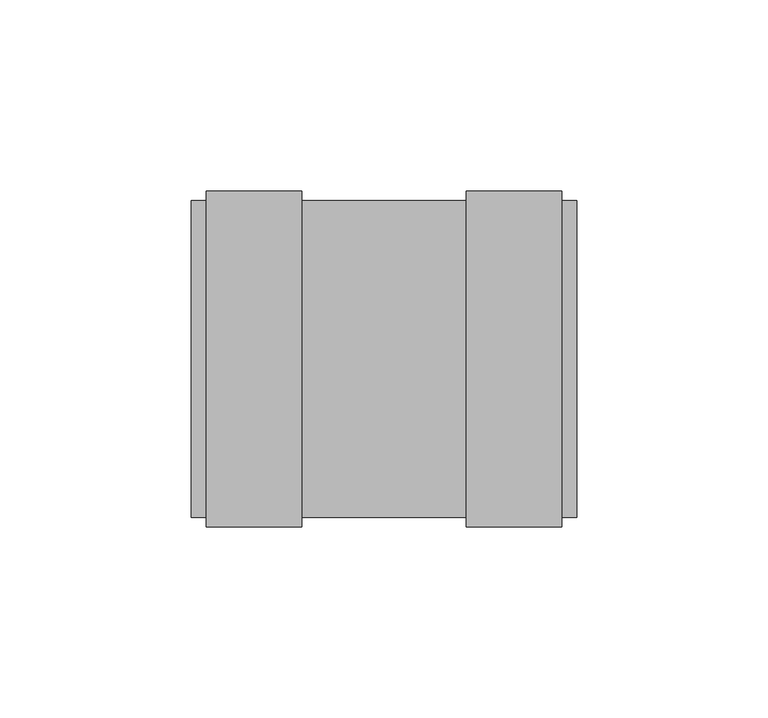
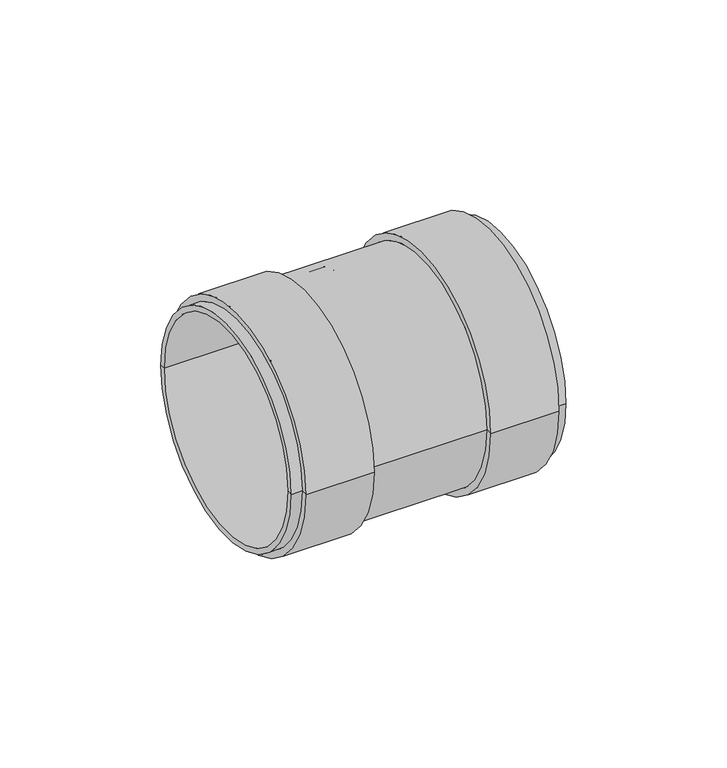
"""IFC4 building model written with IfcOpenShell, lengths in millimetres: duct fitting geometry, NLRS_57_DUF_UN_sleeve joint_M&G : ø75 ø92."""

import ifcopenshell
import ifcopenshell.guid

model = None  # the IFC model being written
_history = None  # IfcOwnerHistory: only IFC2X3 demands one
_inside = {}  # id of a spatial element -> (the spatial element, [elements in it])
_under = {}  # id of a project, library or spatial element -> (it, [spatial elements below it])
_declared = {}  # id of a project -> (the project, [libraries it declares])
_typed = {}  # id of a type object -> (the type object, [elements of that type])
_made_of = {}  # id of a material, layer set ... -> (it, [elements and type objects made of it])


def new_model(schema):
    """Start an empty IFC model of exactly this schema.

    Asked for "IFC4X3", IfcOpenShell would pick the latest addendum, in which some entities
    have other attributes; the version numbers below select the first issue.
    IFC2X3 requires an IfcOwnerHistory on every rooted entity: one is made here for all.
    """
    global model, _history
    if schema == "IFC4X3":
        model = ifcopenshell.file(schema_version=(4, 3, 0, 0))
    else:
        model = ifcopenshell.file(schema=schema)
    _inside.clear()
    _under.clear()
    _declared.clear()
    _typed.clear()
    _made_of.clear()
    _history = None
    if model.schema == "IFC2X3":
        org = make("IfcOrganization", Name="unknown")
        user = make(
            "IfcPersonAndOrganization",
            ThePerson=make("IfcPerson", FamilyName="unknown"),
            TheOrganization=org,
        )
        app = make(
            "IfcApplication",
            ApplicationDeveloper=org,
            Version="unknown",
            ApplicationFullName="unknown",
            ApplicationIdentifier="unknown",
        )
        _history = make(
            "IfcOwnerHistory",
            OwningUser=user,
            OwningApplication=app,
            ChangeAction="ADDED",
            CreationDate=0,
        )
    return model


def make(cls, **values):
    """One entity of the class cls with the attributes given. An attribute that is None is left unset."""
    return model.create_entity(
        cls, **{name: value for name, value in values.items() if value is not None}
    )


def rooted(cls, **values):
    """An entity with a GlobalId (a new one), such as an element, a storey or a relation."""
    return make(cls, GlobalId=ifcopenshell.guid.new(), OwnerHistory=_history, **values)


def si_unit(unit_type, name, prefix=None):
    """IfcSIUnit, for example si_unit("LENGTHUNIT", "METRE", prefix="MILLI")."""
    return make("IfcSIUnit", UnitType=unit_type, Prefix=prefix, Name=name)


def assignment(units):
    """IfcUnitAssignment: the units of a project."""
    return None if units is None else make("IfcUnitAssignment", Units=units)


def point(xyz):
    """IfcCartesianPoint."""
    return None if xyz is None else make("IfcCartesianPoint", Coordinates=xyz)


def direction(xyz):
    """IfcDirection."""
    return None if xyz is None else make("IfcDirection", DirectionRatios=xyz)


def frame(location, z_axis=None, x_axis=None):
    """IfcAxis2Placement3D, a coordinate frame: its origin and axes. An axis left out is left unset."""
    return make(
        "IfcAxis2Placement3D",
        Location=point(location),
        Axis=direction(z_axis),
        RefDirection=direction(x_axis),
    )


def origin():
    """The frame at (0, 0, 0) with its axes left unset."""
    return frame((0.0, 0.0, 0.0))


def place(relative_to, where):
    """IfcLocalPlacement: puts the frame where relative to a parent placement (None: the world)."""
    return make(
        "IfcLocalPlacement", PlacementRelTo=relative_to, RelativePlacement=where
    )


def context(
    kind, dimensions, precision=None, world=None, true_north=None, identifier=None
):
    """IfcGeometricRepresentationContext, for example the 3D "Model" context."""
    return make(
        "IfcGeometricRepresentationContext",
        ContextIdentifier=identifier,
        ContextType=kind,
        CoordinateSpaceDimension=dimensions,
        Precision=precision,
        WorldCoordinateSystem=world,
        TrueNorth=true_north,
    )


def project(units=None, contexts=None):
    """IfcProject with its units and contexts."""
    return rooted(
        "IfcProject",
        Name="project",
        RepresentationContexts=contexts,
        UnitsInContext=assignment(units),
    )


def spatial(cls, under=None, at=None, **own):
    """A site, building, storey or space (cls), placed at a placement, below another one or the project."""
    s = rooted(cls, ObjectPlacement=at, **own)
    if under is not None:
        _under.setdefault(under.id(), (under, []))[1].append(s)
    return s


def polyline(points):
    """IfcPolyline through the points."""
    return make("IfcPolyline", Points=[point(p) for p in points])


def circle_curve(where, radius):
    """IfcCircle in the frame where."""
    return make("IfcCircle", Position=where, Radius=radius)


def shape(context_of_items, identifier, shape_type, items):
    """IfcShapeRepresentation: the items that make up one representation, for example the "Body"."""
    return make(
        "IfcShapeRepresentation",
        ContextOfItems=context_of_items,
        RepresentationIdentifier=identifier,
        RepresentationType=shape_type,
        Items=items,
    )


def source(mapping_origin, context_of_items, identifier, shape_type, items):
    """IfcRepresentationMap: a shape defined once, which mapped items show again and again."""
    return make(
        "IfcRepresentationMap",
        MappingOrigin=mapping_origin,
        MappedRepresentation=shape(context_of_items, identifier, shape_type, items),
    )


def transform(
    local_origin,
    x_axis=None,
    y_axis=None,
    z_axis=None,
    scale=None,
    scale2=None,
    scale3=None,
    uniform=True,
):
    """IfcCartesianTransformationOperator3D, or its non-uniform kind. x_axis, y_axis, z_axis: its Axis1, 2, 3."""
    if uniform:
        return make(
            "IfcCartesianTransformationOperator3D",
            Axis1=direction(x_axis),
            Axis2=direction(y_axis),
            LocalOrigin=point(local_origin),
            Scale=scale,
            Axis3=direction(z_axis),
        )
    return make(
        "IfcCartesianTransformationOperator3DnonUniform",
        Axis1=direction(x_axis),
        Axis2=direction(y_axis),
        LocalOrigin=point(local_origin),
        Scale=scale,
        Axis3=direction(z_axis),
        Scale2=scale2,
        Scale3=scale3,
    )


def mapped(mapping_source, mapping_target):
    """IfcMappedItem: shows the shape of a source again, moved by a transform."""
    return make(
        "IfcMappedItem", MappingSource=mapping_source, MappingTarget=mapping_target
    )


def made_of(thing, what):
    """Note that an element or type object is made of a material, layer set ...; save() writes the relation."""
    if what is not None:
        _made_of.setdefault(what.id(), (what, []))[1].append(thing)
    return thing


def element(
    cls,
    number,
    at=None,
    inside=None,
    cuts=None,
    type_object=None,
    material=None,
    context=None,
    identifier="Body",
    shape_type=None,
    held_by="IfcProductDefinitionShape",
    body=None,
    shapes=None,
    **own,
):
    """One element of the class cls, such as IfcWall. Its Tag is "e" and its number.

    at: its placement. inside: the storey or other place that contains it. cuts: it is an
    opening in that element (IfcRelVoidsElement). A single representation is given by context,
    identifier, shape_type and body (its items); several are given by shapes. held_by: the class
    of the entity that holds the representations. save() writes the other relations.
    """
    e = rooted(cls, Tag="e%d" % number, ObjectPlacement=at, **own)
    if body is not None:
        shapes = [shape(context, identifier, shape_type, body)]
    if shapes is not None:
        e.Representation = make(held_by, Representations=shapes)
    if inside is not None:
        _inside.setdefault(inside.id(), (inside, []))[1].append(e)
    if cuts is not None:
        rooted(
            "IfcRelVoidsElement", RelatingBuildingElement=cuts, RelatedOpeningElement=e
        )
    if type_object is not None:
        _typed.setdefault(type_object.id(), (type_object, []))[1].append(e)
    return made_of(e, material)


def aggregate(whole, parts):
    """IfcRelAggregates: a whole, such as a stair, and the parts it consists of."""
    return rooted("IfcRelAggregates", RelatingObject=whole, RelatedObjects=parts)


def save(model, path):
    """Write the relations noted so far, then the file.

    IfcRelAggregates (storeys below a building ...), IfcRelContainedInSpatialStructure (elements
    in a storey), IfcRelDefinesByType, IfcRelAssociatesMaterial and IfcRelDeclares: one each for
    every whole, place, type object, material and project.
    """
    for whole, parts in _under.values():
        aggregate(whole, parts)
    for where, things in _inside.values():
        rooted(
            "IfcRelContainedInSpatialStructure",
            RelatedElements=things,
            RelatingStructure=where,
        )
    for kind, things in _typed.values():
        rooted("IfcRelDefinesByType", RelatedObjects=things, RelatingType=kind)
    for what, things in _made_of.values():
        rooted("IfcRelAssociatesMaterial", RelatedObjects=things, RelatingMaterial=what)
    for by, libraries in _declared.values():
        rooted("IfcRelDeclares", RelatingContext=by, RelatedDefinitions=libraries)
    model.write(path)


def plane_surface(at):
    """IfcPlane: the flat surface through the origin of the frame at, square to its z axis."""
    return make("IfcPlane", Position=at)


def cylinder_surface(at, radius):
    """IfcCylindricalSurface: all points at the distance radius from the z axis of the frame at."""
    return make("IfcCylindricalSurface", Position=at, Radius=radius)


def revolved_surface(curve, axis_point, axis_direction):
    """IfcSurfaceOfRevolution: the curve turned about the line through axis_point along axis_direction."""
    return make(
        "IfcSurfaceOfRevolution",
        SweptCurve=make("IfcArbitraryOpenProfileDef", ProfileType="CURVE", Curve=curve),
        AxisPosition=make("IfcAxis1Placement", Location=point(axis_point), Axis=direction(axis_direction)),
    )


def advanced_brep(points, edges, surfaces, faces):
    """IfcAdvancedBrep: a solid bounded by faces that lie on surfaces and meet in shared edges.

    An edge is (start, end): straight between two places in points (the first is 0);
    or (start, end, curve); or (start, end, curve, False) where it runs against its curve.
    A face is (place in surfaces, loops), or (place, loops, False) where it looks against
    its surface's normal. A loop lists edges by number (the first is 1), with a minus sign
    where the edge is run from its end to its start. The first loop is the outer one.
    """
    corners = [point(p) for p in points]
    vertices = [make("IfcVertexPoint", VertexGeometry=c) for c in corners]
    made = []
    for start, end, *more in edges:
        made.append(
            make(
                "IfcEdgeCurve",
                EdgeStart=vertices[start],
                EdgeEnd=vertices[end],
                EdgeGeometry=more[0] if more else make("IfcPolyline", Points=[corners[start], corners[end]]),
                SameSense=more[1] if len(more) > 1 else True,
            )
        )
    hull = []
    for where, loops, *sense in faces:
        bounds = []
        for j, loop in enumerate(loops):
            ring = [make("IfcOrientedEdge", EdgeElement=made[abs(k) - 1], Orientation=k > 0) for k in loop]
            bounds.append(
                make(
                    "IfcFaceOuterBound" if j == 0 else "IfcFaceBound",
                    Bound=make("IfcEdgeLoop", EdgeList=ring),
                    Orientation=True,
                )
            )
        hull.append(make("IfcAdvancedFace", Bounds=bounds, FaceSurface=surfaces[where], SameSense=sense[0] if sense else True))
    return make("IfcAdvancedBrep", Outer=make("IfcClosedShell", CfsFaces=hull))


def duct_fitting_2c451d22(model_context):
    return source(origin(), model_context, "Body", "AdvancedBrep", [
        advanced_brep(
        [(-50.5, -41.5, 0.0), (-50.5, 41.5, 0.0), (-46.5, 41.5, 0.0), (-46.5, -41.5, 0.0), (-50.5, -39.5, 0.0), (-50.5, 39.5, 0.0), (-1.5, -39.5, 0.0), (-1.5, 39.5, 0.0), (-1.5, -37.5, 0.0), (-1.5, 37.5, 0.0), (1.5, -39.5, 0.0), (1.5, 39.5, 0.0), (1.5, 37.5, 0.0), (1.5, -37.5, 0.0), (50.5, -39.5, 0.0), (50.5, 39.5, 0.0), (50.5, -41.5, 0.0), (50.5, 41.5, 0.0), (46.5, -41.5, 0.0), (46.5, 41.5, 0.0), (46.5, -44.0, 0.0), (46.5, 44.0, 0.0), (21.5, -44.0, 0.0), (21.5, 44.0, 0.0), (21.5, -41.5, 0.0), (21.5, 41.5, 0.0), (-21.5, -41.5, 0.0), (-21.5, 41.5, 0.0), (-21.5, -44.0, 0.0), (-21.5, 44.0, 0.0), (-46.5, -44.0, 0.0), (-46.5, 44.0, 0.0)],
        [
            (0, 1, circle_curve(frame((-50.5, 0.0, 0.0), z_axis=(1.0, 0.0, 0.0), x_axis=(0.0, 1.0, 0.0)), 41.5)),
            (1, 2),
            (2, 3, circle_curve(frame((-46.5, 0.0, 0.0), z_axis=(-1.0, 0.0, 0.0), x_axis=(0.0, 1.0, 0.0)), 41.5)),
            (3, 0),
            (1, 0, circle_curve(frame((-50.5, 0.0, 0.0), z_axis=(1.0, 0.0, 0.0), x_axis=(0.0, 1.0, 0.0)), 41.5)),
            (3, 2, circle_curve(frame((-46.5, 0.0, 0.0), z_axis=(-1.0, 0.0, 0.0), x_axis=(0.0, 1.0, 0.0)), 41.5)),
            (4, 5, circle_curve(frame((-50.5, 0.0, 0.0), z_axis=(1.0, 0.0, 0.0), x_axis=(0.0, 1.0, 0.0)), 39.5)),
            (5, 1),
            (0, 4),
            (5, 4, circle_curve(frame((-50.5, 0.0, 0.0), z_axis=(1.0, 0.0, 0.0), x_axis=(0.0, 1.0, 0.0)), 39.5)),
            (6, 7, circle_curve(frame((-1.5, 0.0, 0.0), z_axis=(1.0, 0.0, 0.0), x_axis=(0.0, 1.0, 0.0)), 39.5)),
            (7, 5),
            (4, 6),
            (7, 6, circle_curve(frame((-1.5, 0.0, 0.0), z_axis=(1.0, 0.0, 0.0), x_axis=(0.0, 1.0, 0.0)), 39.5)),
            (8, 9, circle_curve(frame((-1.5, 0.0, 0.0), z_axis=(1.0, 0.0, 0.0), x_axis=(0.0, 1.0, 0.0)), 37.5)),
            (9, 7),
            (6, 8),
            (9, 8, circle_curve(frame((-1.5, 0.0, 0.0), z_axis=(1.0, 0.0, 0.0), x_axis=(0.0, 1.0, 0.0)), 37.5)),
            (10, 11, circle_curve(frame((1.5, 0.0, 0.0), z_axis=(1.0, 0.0, 0.0), x_axis=(0.0, 1.0, 0.0)), 39.5)),
            (11, 12),
            (12, 13, circle_curve(frame((1.5, 0.0, 0.0), z_axis=(-1.0, 0.0, 0.0), x_axis=(0.0, 1.0, 0.0)), 37.5)),
            (13, 10),
            (11, 10, circle_curve(frame((1.5, 0.0, 0.0), z_axis=(1.0, 0.0, 0.0), x_axis=(0.0, 1.0, 0.0)), 39.5)),
            (13, 12, circle_curve(frame((1.5, 0.0, 0.0), z_axis=(-1.0, 0.0, 0.0), x_axis=(0.0, 1.0, 0.0)), 37.5)),
            (14, 15, circle_curve(frame((50.5, 0.0, 0.0), z_axis=(1.0, 0.0, 0.0), x_axis=(0.0, 1.0, 0.0)), 39.5)),
            (15, 11),
            (10, 14),
            (15, 14, circle_curve(frame((50.5, 0.0, 0.0), z_axis=(1.0, 0.0, 0.0), x_axis=(0.0, 1.0, 0.0)), 39.5)),
            (16, 17, circle_curve(frame((50.5, 0.0, 0.0), z_axis=(1.0, 0.0, 0.0), x_axis=(0.0, 1.0, 0.0)), 41.5)),
            (17, 15),
            (14, 16),
            (17, 16, circle_curve(frame((50.5, 0.0, 0.0), z_axis=(1.0, 0.0, 0.0), x_axis=(0.0, 1.0, 0.0)), 41.5)),
            (18, 19, circle_curve(frame((46.5, 0.0, 0.0), z_axis=(1.0, 0.0, 0.0), x_axis=(0.0, 1.0, 0.0)), 41.5)),
            (19, 17),
            (16, 18),
            (19, 18, circle_curve(frame((46.5, 0.0, 0.0), z_axis=(1.0, 0.0, 0.0), x_axis=(0.0, 1.0, 0.0)), 41.5)),
            (20, 21, circle_curve(frame((46.5, 0.0, 0.0), z_axis=(1.0, 0.0, 0.0), x_axis=(0.0, 1.0, 0.0)), 44.0)),
            (21, 19),
            (18, 20),
            (21, 20, circle_curve(frame((46.5, 0.0, 0.0), z_axis=(1.0, 0.0, 0.0), x_axis=(0.0, 1.0, 0.0)), 44.0)),
            (22, 23, circle_curve(frame((21.5, 0.0, 0.0), z_axis=(1.0, 0.0, 0.0), x_axis=(0.0, 1.0, 0.0)), 44.0)),
            (23, 21),
            (20, 22),
            (23, 22, circle_curve(frame((21.5, 0.0, 0.0), z_axis=(1.0, 0.0, 0.0), x_axis=(0.0, 1.0, 0.0)), 44.0)),
            (24, 25, circle_curve(frame((21.5, 0.0, 0.0), z_axis=(1.0, 0.0, 0.0), x_axis=(0.0, 1.0, 0.0)), 41.5)),
            (25, 23),
            (22, 24),
            (25, 24, circle_curve(frame((21.5, 0.0, 0.0), z_axis=(1.0, 0.0, 0.0), x_axis=(0.0, 1.0, 0.0)), 41.5)),
            (26, 27, circle_curve(frame((-21.5, 0.0, 0.0), z_axis=(1.0, 0.0, 0.0), x_axis=(0.0, 1.0, 0.0)), 41.5)),
            (27, 25),
            (24, 26),
            (27, 26, circle_curve(frame((-21.5, 0.0, 0.0), z_axis=(1.0, 0.0, 0.0), x_axis=(0.0, 1.0, 0.0)), 41.5)),
            (28, 29, circle_curve(frame((-21.5, 0.0, 0.0), z_axis=(1.0, 0.0, 0.0), x_axis=(0.0, 1.0, 0.0)), 44.0)),
            (29, 27),
            (26, 28),
            (29, 28, circle_curve(frame((-21.5, 0.0, 0.0), z_axis=(1.0, 0.0, 0.0), x_axis=(0.0, 1.0, 0.0)), 44.0)),
            (30, 31, circle_curve(frame((-46.5, 0.0, 0.0), z_axis=(1.0, 0.0, 0.0), x_axis=(0.0, 1.0, 0.0)), 44.0)),
            (31, 29),
            (28, 30),
            (31, 30, circle_curve(frame((-46.5, 0.0, 0.0), z_axis=(1.0, 0.0, 0.0), x_axis=(0.0, 1.0, 0.0)), 44.0)),
            (2, 31),
            (30, 3),
            (12, 9),
            (8, 13),
        ],
        [
            cylinder_surface(frame((1998.0, 0.0, 0.0), z_axis=(-1.0, 0.0, 0.0), x_axis=(0.0, 1.0, 0.0)), 41.5),
            plane_surface(frame((-50.5, 0.0, 0.0), z_axis=(-1.0, 0.0, 0.0), x_axis=(0.0, 1.0, 0.0))),
            revolved_surface(polyline([(-50.5, 39.5, 0.0), (-1.5, 39.5, 0.0)]), (1998.0, 0.0, 0.0), (-1.0, 0.0, 0.0)),
            plane_surface(frame((-1.5, 0.0, 0.0), z_axis=(-1.0, 0.0, 0.0), x_axis=(0.0, 1.0, 0.0))),
            plane_surface(frame((1.5, 0.0, 0.0), z_axis=(1.0, 0.0, 0.0), x_axis=(0.0, 1.0, 0.0))),
            revolved_surface(polyline([(1.5, 39.5, 0.0), (50.5, 39.5, 0.0)]), (1998.0, 0.0, 0.0), (-1.0, 0.0, 0.0)),
            plane_surface(frame((50.5, 0.0, 0.0), z_axis=(1.0, 0.0, 0.0), x_axis=(0.0, 1.0, 0.0))),
            plane_surface(frame((46.5, 0.0, 0.0), z_axis=(1.0, 0.0, 0.0), x_axis=(0.0, 1.0, 0.0))),
            cylinder_surface(frame((1998.0, 0.0, 0.0), z_axis=(-1.0, 0.0, 0.0), x_axis=(0.0, 1.0, 0.0)), 44.0),
            plane_surface(frame((21.5, 0.0, 0.0), z_axis=(-1.0, 0.0, 0.0), x_axis=(0.0, 1.0, 0.0))),
            plane_surface(frame((-21.5, 0.0, 0.0), z_axis=(1.0, 0.0, 0.0), x_axis=(0.0, 1.0, 0.0))),
            plane_surface(frame((-46.5, 0.0, 0.0), z_axis=(-1.0, 0.0, 0.0), x_axis=(0.0, 1.0, 0.0))),
            revolved_surface(polyline([(-1.5, 37.5, 0.0), (1.5, 37.5, 0.0)]), (1998.0, 0.0, 0.0), (-1.0, 0.0, 0.0)),
        ],
        [
            (0, [[1, 2, 3, 4]]),
            (0, [[5, -4, 6, -2]]),
            (1, [[7, 8, -1, 9]]),
            (1, [[10, -9, -5, -8]]),
            (2, [[11, 12, -7, 13]]),
            (2, [[14, -13, -10, -12]]),
            (3, [[15, 16, -11, 17]]),
            (3, [[18, -17, -14, -16]]),
            (4, [[19, 20, 21, 22]]),
            (4, [[23, -22, 24, -20]]),
            (5, [[25, 26, -19, 27]]),
            (5, [[28, -27, -23, -26]]),
            (6, [[29, 30, -25, 31]]),
            (6, [[32, -31, -28, -30]]),
            (0, [[33, 34, -29, 35]]),
            (0, [[36, -35, -32, -34]]),
            (7, [[37, 38, -33, 39]]),
            (7, [[40, -39, -36, -38]]),
            (8, [[41, 42, -37, 43]]),
            (8, [[44, -43, -40, -42]]),
            (9, [[45, 46, -41, 47]]),
            (9, [[48, -47, -44, -46]]),
            (0, [[49, 50, -45, 51]]),
            (0, [[52, -51, -48, -50]]),
            (10, [[53, 54, -49, 55]]),
            (10, [[56, -55, -52, -54]]),
            (8, [[57, 58, -53, 59]]),
            (8, [[60, -59, -56, -58]]),
            (11, [[-3, 61, -57, 62]]),
            (11, [[-6, -62, -60, -61]]),
            (12, [[-21, 63, -15, 64]]),
            (12, [[-24, -64, -18, -63]]),
        ],
    ),
    ])


if __name__ == "__main__":
    model = new_model("IFC4")
    model_context = context("Model", 3, world=origin())
    ifc_project = project(units=[si_unit("LENGTHUNIT", "METRE", prefix="MILLI")], contexts=[model_context])
    site = spatial("IfcSite", under=ifc_project)
    building = spatial("IfcBuilding", under=site)
    placement = place(None, origin())
    duct_fitting_shape = duct_fitting_2c451d22(model_context)
    element("IfcDuctFitting", 1, ObjectType="NLRS_57_DUF_UN_sleeve joint_M&G : ø75 ø92", at=placement, inside=building, context=model_context, shape_type="MappedRepresentation", body=[
        mapped(duct_fitting_shape, transform((0.0, 0.0, 0.0), x_axis=(1.0, 0.0, 0.0), y_axis=(0.0, 1.0, 0.0), z_axis=(0.0, 0.0, 1.0))),
    ])
    save(model, "model.ifc")
